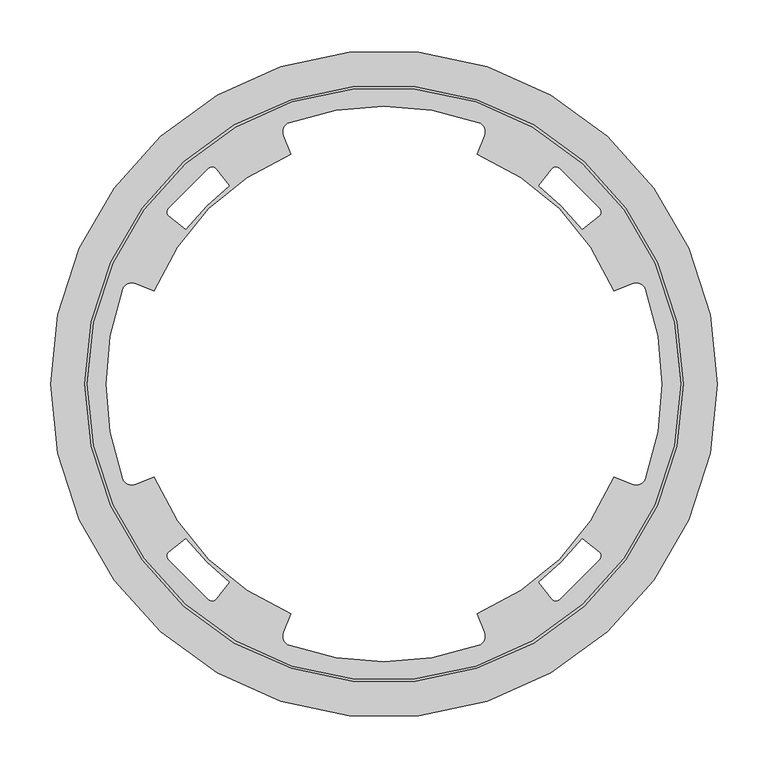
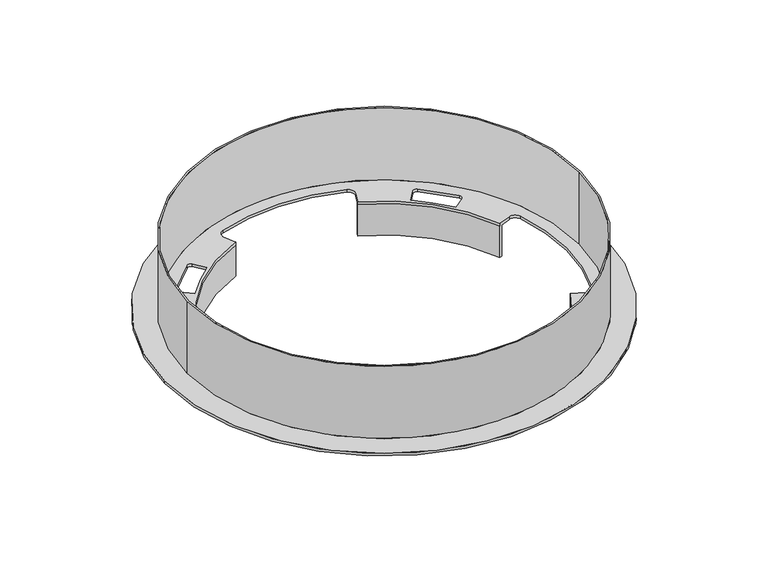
"""IFC4 building model written with IfcOpenShell, lengths in millimetres: proxy geometry, RSK C3 Chamber Adapter : RSK C3 C.A."""

from ifc_helpers import new_model, si_unit, frame, origin, origin_with_axes, place, context, project, spatial, polyline, circle_curve, source, transform, mapped, element, save
from ifc_brep_helpers import plane_surface, cylinder_surface, revolved_surface, advanced_brep


def generic_models_1d168c08(model_context):
    return source(origin(), model_context, "Body", "AdvancedBrep", [
        advanced_brep(
        [(-330.0, 0.0, 4.0), (330.0, 0.0, 4.0), (296.0, 0.0, 4.0), (-296.0, 0.0, 4.0), (293.5, 0.0, 4.0), (-293.5, 0.0, 4.0), (93.3217201, -258.6813804, 4.0), (-93.3217201, -258.6813804, 4.0), (-99.2000416, -245.5287188, 4.0), (-91.7786154, -227.1600444, 4.0), (-227.1600444, -91.7786154, 4.0), (-245.5287188, -99.2000416, 4.0), (-258.6813804, -93.3217201, 4.0), (-258.6813804, 93.3217201, 4.0), (-245.5287188, 99.2000416, 4.0), (-227.1600444, 91.7786154, 4.0), (-91.7786154, 227.1600444, 4.0), (-99.2000416, 245.5287188, 4.0), (-93.3217201, 258.6813804, 4.0), (93.3217201, 258.6813804, 4.0), (99.2000416, 245.5287188, 4.0), (91.7786154, 227.1600444, 4.0), (227.1600444, 91.7786154, 4.0), (245.5287188, 99.2000416, 4.0), (258.6813804, 93.3217201, 4.0), (258.6813804, -93.3217201, 4.0), (245.5287188, -99.2000416, 4.0), (227.1600444, -91.7786154, 4.0), (91.7786154, -227.1600444, 4.0), (99.2000416, -245.5287188, 4.0), (212.7264184, -166.200093, 4.0), (213.5304834, -173.2908903, 4.0), (173.2908903, -213.5304834, 4.0), (166.200093, -212.7264184, 4.0), (153.2997074, -196.2146776, 4.0), (196.2146776, -153.2997074, 4.0), (166.200093, 212.7264184, 4.0), (173.2908903, 213.5304834, 4.0), (213.5304834, 173.2908903, 4.0), (212.7264184, 166.200093, 4.0), (196.2146776, 153.2997074, 4.0), (153.2997074, 196.2146776, 4.0), (-212.7264184, -166.200093, 4.0), (-196.2146776, -153.2997074, 4.0), (-153.2997074, -196.2146776, 4.0), (-166.200093, -212.7264184, 4.0), (-173.2908903, -213.5304834, 4.0), (-213.5304834, -173.2908903, 4.0), (-166.200093, 212.7264184, 4.0), (-153.2997074, 196.2146776, 4.0), (-196.2146776, 153.2997074, 4.0), (-212.7264184, 166.200093, 4.0), (-213.5304834, 173.2908903, 4.0), (-173.2908903, 213.5304834, 4.0), (-330.0, 0.0, 0.0), (330.0, 0.0, 0.0), (93.3217201, -258.6813804, 0.0), (99.2000416, -245.5287188, 0.0), (93.2770418, -230.8687798, 0.0), (153.2997074, -196.2146776, 0.0), (166.200093, -212.7264184, 0.0), (173.2908903, -213.5304834, 0.0), (213.5304834, -173.2908903, 0.0), (212.7264184, -166.200093, 0.0), (196.2146776, -153.2997074, 0.0), (230.8687798, -93.2770418, 0.0), (245.5287188, -99.2000416, 0.0), (258.6813804, -93.3217201, 0.0), (258.6813804, 93.3217201, 0.0), (245.5287188, 99.2000416, 0.0), (230.8687798, 93.2770418, 0.0), (196.2146776, 153.2997074, 0.0), (212.7264184, 166.200093, 0.0), (213.5304834, 173.2908903, 0.0), (173.2908903, 213.5304834, 0.0), (166.200093, 212.7264184, 0.0), (153.2997074, 196.2146776, 0.0), (93.2770418, 230.8687798, 0.0), (99.2000416, 245.5287188, 0.0), (93.3217201, 258.6813804, 0.0), (-93.3217201, 258.6813804, 0.0), (-99.2000416, 245.5287188, 0.0), (-93.2770418, 230.8687798, 0.0), (-153.2997074, 196.2146776, 0.0), (-166.200093, 212.7264184, 0.0), (-173.2908903, 213.5304834, 0.0), (-213.5304834, 173.2908903, 0.0), (-212.7264184, 166.200093, 0.0), (-196.2146776, 153.2997074, 0.0), (-230.8687798, 93.2770418, 0.0), (-245.5287188, 99.2000416, 0.0), (-258.6813804, 93.3217201, 0.0), (-258.6813804, -93.3217201, 0.0), (-245.5287188, -99.2000416, 0.0), (-230.8687798, -93.2770418, 0.0), (-196.2146776, -153.2997074, 0.0), (-212.7264184, -166.200093, 0.0), (-213.5304834, -173.2908903, 0.0), (-173.2908903, -213.5304834, 0.0), (-166.200093, -212.7264184, 0.0), (-153.2997074, -196.2146776, 0.0), (-93.2770418, -230.8687798, 0.0), (-99.2000416, -245.5287188, 0.0), (-93.3217201, -258.6813804, 0.0), (-93.2770418, -230.8687798, -50.0), (-91.7786154, -227.1600444, -50.0), (-91.7786154, -227.1600444, 0.0), (-227.1600444, -91.7786154, 0.0), (-227.1600444, -91.7786154, -50.0), (-230.8687798, -93.2770418, -50.0), (-230.8687798, 93.2770418, -50.0), (-227.1600444, 91.7786154, -50.0), (-227.1600444, 91.7786154, 0.0), (-91.7786154, 227.1600444, 0.0), (-91.7786154, 227.1600444, -50.0), (-93.2770418, 230.8687798, -50.0), (93.2770418, 230.8687798, -50.0), (91.7786154, 227.1600444, -50.0), (91.7786154, 227.1600444, 0.0), (227.1600444, 91.7786154, 0.0), (227.1600444, 91.7786154, -50.0), (230.8687798, 93.2770418, -50.0), (230.8687798, -93.2770418, -50.0), (227.1600444, -91.7786154, -50.0), (227.1600444, -91.7786154, 0.0), (91.7786154, -227.1600444, 0.0), (91.7786154, -227.1600444, -50.0), (93.2770418, -230.8687798, -50.0), (-296.0, 0.0, 119.0), (296.0, 0.0, 119.0), (-293.5, 0.0, 119.0), (293.5, 0.0, 119.0)],
        [
            (0, 1, circle_curve(frame((0.0, 0.0, 4.0), z_axis=(0.0, 0.0, 1.0), x_axis=(1.0, 0.0, 0.0)), 330.0)),
            (1, 0, circle_curve(frame((0.0, 0.0, 4.0), z_axis=(0.0, 0.0, 1.0), x_axis=(1.0, 0.0, 0.0)), 330.0)),
            (2, 3, circle_curve(frame((0.0, 0.0, 4.0), z_axis=(0.0, 0.0, -1.0), x_axis=(1.0, 0.0, 0.0)), 296.0)),
            (3, 2, circle_curve(frame((0.0, 0.0, 4.0), z_axis=(0.0, 0.0, -1.0), x_axis=(1.0, 0.0, 0.0)), 296.0)),
            (4, 5, circle_curve(frame((0.0, 0.0, 4.0), z_axis=(0.0, 0.0, 1.0), x_axis=(1.0, 0.0, 0.0)), 293.5)),
            (5, 4, circle_curve(frame((0.0, 0.0, 4.0), z_axis=(0.0, 0.0, 1.0), x_axis=(1.0, 0.0, 0.0)), 293.5)),
            (6, 7, circle_curve(frame((0.0, 0.0, 4.0), z_axis=(0.0, 0.0, -1.0), x_axis=(1.0, 0.0, 0.0)), 275.0)),
            (7, 8, circle_curve(frame((-89.928203, -249.2747847, 4.0), z_axis=(0.0, 0.0, -1.0), x_axis=(1.0, 0.0, 0.0)), 10.0)),
            (8, 9),
            (9, 10, circle_curve(frame((0.0, 0.0, 4.0), z_axis=(0.0, 0.0, -1.0), x_axis=(1.0, 0.0, 0.0)), 245.0)),
            (10, 11),
            (11, 12, circle_curve(frame((-249.2747847, -89.928203, 4.0), z_axis=(0.0, 0.0, -1.0), x_axis=(1.0, 0.0, 0.0)), 10.0)),
            (12, 13, circle_curve(frame((0.0, 0.0, 4.0), z_axis=(0.0, 0.0, -1.0), x_axis=(1.0, 0.0, 0.0)), 275.0)),
            (13, 14, circle_curve(frame((-249.2747847, 89.928203, 4.0), z_axis=(0.0, 0.0, -1.0), x_axis=(1.0, 0.0, 0.0)), 10.0)),
            (14, 15),
            (15, 16, circle_curve(frame((0.0, 0.0, 4.0), z_axis=(0.0, 0.0, -1.0), x_axis=(1.0, 0.0, 0.0)), 245.0)),
            (16, 17),
            (17, 18, circle_curve(frame((-89.928203, 249.2747847, 4.0), z_axis=(0.0, 0.0, -1.0), x_axis=(1.0, 0.0, 0.0)), 10.0)),
            (18, 19, circle_curve(frame((0.0, 0.0, 4.0), z_axis=(0.0, 0.0, -1.0), x_axis=(1.0, 0.0, 0.0)), 275.0)),
            (19, 20, circle_curve(frame((89.928203, 249.2747847, 4.0), z_axis=(0.0, 0.0, -1.0), x_axis=(1.0, 0.0, 0.0)), 10.0)),
            (20, 21),
            (21, 22, circle_curve(frame((0.0, 0.0, 4.0), z_axis=(0.0, 0.0, -1.0), x_axis=(1.0, 0.0, 0.0)), 245.0)),
            (22, 23),
            (23, 24, circle_curve(frame((249.2747847, 89.928203, 4.0), z_axis=(0.0, 0.0, -1.0), x_axis=(1.0, 0.0, 0.0)), 10.0)),
            (24, 25, circle_curve(frame((0.0, 0.0, 4.0), z_axis=(0.0, 0.0, -1.0), x_axis=(1.0, 0.0, 0.0)), 275.0)),
            (25, 26, circle_curve(frame((249.2747847, -89.928203, 4.0), z_axis=(0.0, 0.0, -1.0), x_axis=(1.0, 0.0, 0.0)), 10.0)),
            (26, 27),
            (27, 28, circle_curve(frame((0.0, 0.0, 4.0), z_axis=(0.0, 0.0, -1.0), x_axis=(1.0, 0.0, 0.0)), 245.0)),
            (28, 29),
            (29, 6, circle_curve(frame((89.928203, -249.2747847, 4.0), z_axis=(0.0, 0.0, -1.0), x_axis=(1.0, 0.0, 0.0)), 10.0)),
            (30, 31, circle_curve(frame((209.648111, -170.1401468, 4.0), z_axis=(0.0, 0.0, -1.0), x_axis=(1.0, 0.0, 0.0)), 5.0)),
            (31, 32, circle_curve(frame((0.0, 0.0, 4.0), z_axis=(0.0, 0.0, -1.0), x_axis=(1.0, 0.0, 0.0)), 275.0)),
            (32, 33, circle_curve(frame((170.1401468, -209.648111, 4.0), z_axis=(0.0, 0.0, -1.0), x_axis=(1.0, 0.0, 0.0)), 5.0)),
            (33, 34),
            (34, 35, circle_curve(frame((0.0, 0.0, 4.0), z_axis=(0.0, 0.0, 1.0), x_axis=(1.0, 0.0, 0.0)), 249.0)),
            (35, 30),
            (36, 37, circle_curve(frame((170.1401468, 209.648111, 4.0), z_axis=(0.0, 0.0, -1.0), x_axis=(0.0, 1.0, 0.0)), 5.0)),
            (37, 38, circle_curve(frame((0.0, 0.0, 4.0), z_axis=(0.0, 0.0, -1.0), x_axis=(0.0, 1.0, 0.0)), 275.0)),
            (38, 39, circle_curve(frame((209.648111, 170.1401468, 4.0), z_axis=(0.0, 0.0, -1.0), x_axis=(0.0, 1.0, 0.0)), 5.0)),
            (39, 40),
            (40, 41, circle_curve(frame((0.0, 0.0, 4.0), z_axis=(0.0, 0.0, 1.0), x_axis=(0.0, 1.0, 0.0)), 249.0)),
            (41, 36),
            (42, 43),
            (43, 44, circle_curve(frame((0.0, 0.0, 4.0), z_axis=(0.0, 0.0, 1.0), x_axis=(-1.0, 0.0, 0.0)), 249.0)),
            (44, 45),
            (45, 46, circle_curve(frame((-170.1401468, -209.648111, 4.0), z_axis=(0.0, 0.0, -1.0), x_axis=(-1.0, 0.0, 0.0)), 5.0)),
            (46, 47, circle_curve(frame((0.0, 0.0, 4.0), z_axis=(0.0, 0.0, -1.0), x_axis=(-1.0, 0.0, 0.0)), 275.0)),
            (47, 42, circle_curve(frame((-209.648111, -170.1401468, 4.0), z_axis=(0.0, 0.0, -1.0), x_axis=(-1.0, 0.0, 0.0)), 5.0)),
            (48, 49),
            (49, 50, circle_curve(frame((0.0, 0.0, 4.0), z_axis=(0.0, 0.0, 1.0), x_axis=(0.0, 1.0, 0.0)), 249.0)),
            (50, 51),
            (51, 52, circle_curve(frame((-209.648111, 170.1401468, 4.0), z_axis=(0.0, 0.0, -1.0), x_axis=(0.0, 1.0, 0.0)), 5.0)),
            (52, 53, circle_curve(frame((0.0, 0.0, 4.0), z_axis=(0.0, 0.0, -1.0), x_axis=(0.0, 1.0, 0.0)), 275.0)),
            (53, 48, circle_curve(frame((-170.1401468, 209.648111, 4.0), z_axis=(0.0, 0.0, -1.0), x_axis=(0.0, 1.0, 0.0)), 5.0)),
            (54, 55, circle_curve(frame((0.0, 0.0, 0.0), z_axis=(0.0, 0.0, -1.0), x_axis=(1.0, 0.0, 0.0)), 330.0)),
            (55, 54, circle_curve(frame((0.0, 0.0, 0.0), z_axis=(0.0, 0.0, -1.0), x_axis=(1.0, 0.0, 0.0)), 330.0)),
            (56, 57, circle_curve(frame((89.928203, -249.2747847, 0.0), z_axis=(0.0, 0.0, 1.0), x_axis=(1.0, 0.0, 0.0)), 10.0)),
            (57, 58),
            (58, 59, circle_curve(origin_with_axes(), 249.0)),
            (59, 60),
            (60, 61, circle_curve(frame((170.1401468, -209.648111, 0.0), z_axis=(0.0, 0.0, 1.0), x_axis=(1.0, 0.0, 0.0)), 5.0)),
            (61, 62, circle_curve(origin_with_axes(), 275.0)),
            (62, 63, circle_curve(frame((209.648111, -170.1401468, 0.0), z_axis=(0.0, 0.0, 1.0), x_axis=(1.0, 0.0, 0.0)), 5.0)),
            (63, 64),
            (64, 65, circle_curve(origin_with_axes(), 249.0)),
            (65, 66),
            (66, 67, circle_curve(frame((249.2747847, -89.928203, 0.0), z_axis=(0.0, 0.0, 1.0), x_axis=(1.0, 0.0, 0.0)), 10.0)),
            (67, 68, circle_curve(origin_with_axes(), 275.0)),
            (68, 69, circle_curve(frame((249.2747847, 89.928203, 0.0), z_axis=(0.0, 0.0, 1.0), x_axis=(1.0, 0.0, 0.0)), 10.0)),
            (69, 70),
            (70, 71, circle_curve(origin_with_axes(), 249.0)),
            (71, 72),
            (72, 73, circle_curve(frame((209.648111, 170.1401468, 0.0), z_axis=(0.0, 0.0, 1.0), x_axis=(0.0, 1.0, 0.0)), 5.0)),
            (73, 74, circle_curve(frame((0.0, 0.0, 0.0), z_axis=(0.0, 0.0, 1.0), x_axis=(0.0, 1.0, 0.0)), 275.0)),
            (74, 75, circle_curve(frame((170.1401468, 209.648111, 0.0), z_axis=(0.0, 0.0, 1.0), x_axis=(0.0, 1.0, 0.0)), 5.0)),
            (75, 76),
            (76, 77, circle_curve(origin_with_axes(), 249.0)),
            (77, 78),
            (78, 79, circle_curve(frame((89.928203, 249.2747847, 0.0), z_axis=(0.0, 0.0, 1.0), x_axis=(1.0, 0.0, 0.0)), 10.0)),
            (79, 80, circle_curve(origin_with_axes(), 275.0)),
            (80, 81, circle_curve(frame((-89.928203, 249.2747847, 0.0), z_axis=(0.0, 0.0, 1.0), x_axis=(1.0, 0.0, 0.0)), 10.0)),
            (81, 82),
            (82, 83, circle_curve(frame((0.0, 0.0, 0.0), z_axis=(0.0, 0.0, 1.0), x_axis=(-1.0, 0.0, 0.0)), 249.0)),
            (83, 84),
            (84, 85, circle_curve(frame((-170.1401468, 209.648111, 0.0), z_axis=(0.0, 0.0, 1.0), x_axis=(0.0, 1.0, 0.0)), 5.0)),
            (85, 86, circle_curve(frame((0.0, 0.0, 0.0), z_axis=(0.0, 0.0, 1.0), x_axis=(0.0, 1.0, 0.0)), 275.0)),
            (86, 87, circle_curve(frame((-209.648111, 170.1401468, 0.0), z_axis=(0.0, 0.0, 1.0), x_axis=(0.0, 1.0, 0.0)), 5.0)),
            (87, 88),
            (88, 89, circle_curve(frame((0.0, 0.0, 0.0), z_axis=(0.0, 0.0, 1.0), x_axis=(-1.0, 0.0, 0.0)), 249.0)),
            (89, 90),
            (90, 91, circle_curve(frame((-249.2747847, 89.928203, 0.0), z_axis=(0.0, 0.0, 1.0), x_axis=(1.0, 0.0, 0.0)), 10.0)),
            (91, 92, circle_curve(origin_with_axes(), 275.0)),
            (92, 93, circle_curve(frame((-249.2747847, -89.928203, 0.0), z_axis=(0.0, 0.0, 1.0), x_axis=(1.0, 0.0, 0.0)), 10.0)),
            (93, 94),
            (94, 95, circle_curve(frame((0.0, 0.0, 0.0), z_axis=(0.0, 0.0, 1.0), x_axis=(-1.0, 0.0, 0.0)), 249.0)),
            (95, 96),
            (96, 97, circle_curve(frame((-209.648111, -170.1401468, 0.0), z_axis=(0.0, 0.0, 1.0), x_axis=(-1.0, 0.0, 0.0)), 5.0)),
            (97, 98, circle_curve(frame((0.0, 0.0, 0.0), z_axis=(0.0, 0.0, 1.0), x_axis=(-1.0, 0.0, 0.0)), 275.0)),
            (98, 99, circle_curve(frame((-170.1401468, -209.648111, 0.0), z_axis=(0.0, 0.0, 1.0), x_axis=(-1.0, 0.0, 0.0)), 5.0)),
            (99, 100),
            (100, 101, circle_curve(frame((0.0, 0.0, 0.0), z_axis=(0.0, 0.0, 1.0), x_axis=(-1.0, 0.0, 0.0)), 249.0)),
            (101, 102),
            (102, 103, circle_curve(frame((-89.928203, -249.2747847, 0.0), z_axis=(0.0, 0.0, 1.0), x_axis=(1.0, 0.0, 0.0)), 10.0)),
            (103, 56, circle_curve(origin_with_axes(), 275.0)),
            (6, 56),
            (103, 7),
            (102, 8),
            (101, 104),
            (104, 105),
            (105, 106),
            (106, 9),
            (106, 107, circle_curve(frame((0.0, 0.0, 0.0), z_axis=(0.0, 0.0, -1.0), x_axis=(1.0, 0.0, 0.0)), 245.0)),
            (107, 10),
            (107, 108),
            (108, 109),
            (109, 94),
            (93, 11),
            (92, 12),
            (91, 13),
            (90, 14),
            (89, 110),
            (110, 111),
            (111, 112),
            (112, 15),
            (112, 113, circle_curve(frame((0.0, 0.0, 0.0), z_axis=(0.0, 0.0, -1.0), x_axis=(1.0, 0.0, 0.0)), 245.0)),
            (113, 16),
            (113, 114),
            (114, 115),
            (115, 82),
            (81, 17),
            (80, 18),
            (79, 19),
            (78, 20),
            (77, 116),
            (116, 117),
            (117, 118),
            (118, 21),
            (118, 119, circle_curve(frame((0.0, 0.0, 0.0), z_axis=(0.0, 0.0, -1.0), x_axis=(1.0, 0.0, 0.0)), 245.0)),
            (119, 22),
            (119, 120),
            (120, 121),
            (121, 70),
            (69, 23),
            (68, 24),
            (67, 25),
            (66, 26),
            (65, 122),
            (122, 123),
            (123, 124),
            (124, 27),
            (124, 125, circle_curve(frame((0.0, 0.0, 0.0), z_axis=(0.0, 0.0, -1.0), x_axis=(1.0, 0.0, 0.0)), 245.0)),
            (125, 28),
            (125, 126),
            (126, 127),
            (127, 58),
            (57, 29),
            (0, 54),
            (55, 1),
            (30, 63),
            (62, 31),
            (61, 32),
            (60, 33),
            (59, 34),
            (59, 64, circle_curve(origin_with_axes(), 249.0)),
            (64, 35),
            (36, 75),
            (74, 37),
            (73, 38),
            (72, 39),
            (71, 40),
            (71, 76, circle_curve(frame((0.0, 0.0, 0.0), z_axis=(0.0, 0.0, 1.0), x_axis=(0.0, 1.0, 0.0)), 249.0)),
            (76, 41),
            (42, 96),
            (95, 43),
            (95, 100, circle_curve(frame((0.0, 0.0, 0.0), z_axis=(0.0, 0.0, 1.0), x_axis=(-1.0, 0.0, 0.0)), 249.0)),
            (100, 44),
            (99, 45),
            (98, 46),
            (97, 47),
            (48, 84),
            (83, 49),
            (83, 88, circle_curve(frame((0.0, 0.0, 0.0), z_axis=(0.0, 0.0, 1.0), x_axis=(0.0, 1.0, 0.0)), 249.0)),
            (88, 50),
            (87, 51),
            (86, 52),
            (85, 53),
            (128, 129, circle_curve(frame((0.0, 0.0, 119.0), z_axis=(0.0, 0.0, 1.0), x_axis=(1.0, 0.0, 0.0)), 296.0)),
            (129, 128, circle_curve(frame((0.0, 0.0, 119.0), z_axis=(0.0, 0.0, 1.0), x_axis=(1.0, 0.0, 0.0)), 296.0)),
            (130, 131, circle_curve(frame((0.0, 0.0, 119.0), z_axis=(0.0, 0.0, -1.0), x_axis=(1.0, 0.0, 0.0)), 293.5)),
            (131, 130, circle_curve(frame((0.0, 0.0, 119.0), z_axis=(0.0, 0.0, -1.0), x_axis=(1.0, 0.0, 0.0)), 293.5)),
            (130, 5),
            (4, 131),
            (128, 3),
            (2, 129),
            (110, 115, circle_curve(frame((0.0, 0.0, -50.0), z_axis=(0.0, 0.0, -1.0), x_axis=(-1.0, 0.0, 0.0)), 249.0)),
            (114, 111, circle_curve(frame((0.0, 0.0, -50.0), z_axis=(0.0, 0.0, 1.0), x_axis=(-1.0, 0.0, 0.0)), 245.0)),
            (122, 127, circle_curve(frame((0.0, 0.0, -50.0), z_axis=(0.0, 0.0, -1.0), x_axis=(1.0, 0.0, 0.0)), 249.0)),
            (126, 123, circle_curve(frame((0.0, 0.0, -50.0), z_axis=(0.0, 0.0, 1.0), x_axis=(1.0, 0.0, 0.0)), 245.0)),
            (108, 105, circle_curve(frame((0.0, 0.0, -50.0), z_axis=(0.0, 0.0, 1.0), x_axis=(-1.0, 0.0, 0.0)), 245.0)),
            (104, 109, circle_curve(frame((0.0, 0.0, -50.0), z_axis=(0.0, 0.0, -1.0), x_axis=(-1.0, 0.0, 0.0)), 249.0)),
            (120, 117, circle_curve(frame((0.0, 0.0, -50.0), z_axis=(0.0, 0.0, 1.0), x_axis=(1.0, 0.0, 0.0)), 245.0)),
            (116, 121, circle_curve(frame((0.0, 0.0, -50.0), z_axis=(0.0, 0.0, -1.0), x_axis=(1.0, 0.0, 0.0)), 249.0)),
        ],
        [
            plane_surface(frame((275.0, 0.0, 4.0), z_axis=(0.0, 0.0, 1.0), x_axis=(0.0, -1.0, 0.0))),
            plane_surface(frame((275.0, 0.0, 0.0), z_axis=(0.0, 0.0, -1.0), x_axis=(0.0, 1.0, 0.0))),
            revolved_surface(polyline([(275.0, 0.0, 0.0), (275.0, 0.0, 4.0)]), (0.0, 0.0, 0.0), (0.0, 0.0, -1.0)),
            revolved_surface(polyline([(-79.928203, -249.2747847, 0.0), (-79.928203, -249.2747847, 4.0)]), (-89.928203, -249.2747847, 0.0), (0.0, 0.0, -1.0)),
            plane_surface(frame((-99.2000416, -245.5287188, 4.0), z_axis=(0.9271838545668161, -0.3746065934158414, 0.0), x_axis=(0.0, 0.0, -1.0))),
            revolved_surface(polyline([(245.0, 0.0, 0.0), (245.0, 0.0, 4.0)]), (0.0, 0.0, 0.0), (0.0, 0.0, -1.0)),
            plane_surface(frame((-227.1600444, -91.7786154, 4.0), z_axis=(-0.3746065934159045, 0.9271838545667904, 0.0), x_axis=(0.0, 0.0, -1.0))),
            revolved_surface(polyline([(-239.2747847, -89.928203, 0.0), (-239.2747847, -89.928203, 4.0)]), (-249.2747847, -89.928203, 0.0), (0.0, 0.0, -1.0)),
            revolved_surface(polyline([(-239.2747847, 89.928203, 0.0), (-239.2747847, 89.928203, 4.0)]), (-249.2747847, 89.928203, 0.0), (0.0, 0.0, -1.0)),
            plane_surface(frame((-245.5287188, 99.2000416, 4.0), z_axis=(-0.37460659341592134, -0.9271838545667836, 0.0), x_axis=(0.0, 0.0, -1.0))),
            plane_surface(frame((-91.7786154, 227.1600444, 4.0), z_axis=(0.9271838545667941, 0.3746065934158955, 0.0), x_axis=(0.0, 0.0, -1.0))),
            revolved_surface(polyline([(-79.928203, 249.2747847, 0.0), (-79.928203, 249.2747847, 4.0)]), (-89.928203, 249.2747847, 0.0), (0.0, 0.0, -1.0)),
            revolved_surface(polyline([(99.928203, 249.2747847, 0.0), (99.928203, 249.2747847, 4.0)]), (89.928203, 249.2747847, 0.0), (0.0, 0.0, -1.0)),
            plane_surface(frame((99.2000416, 245.5287188, 4.0), z_axis=(-0.9271838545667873, 0.37460659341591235, 0.0), x_axis=(0.0, 0.0, -1.0))),
            plane_surface(frame((227.1600444, 91.7786154, 4.0), z_axis=(0.3746065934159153, -0.9271838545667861, 0.0), x_axis=(0.0, 0.0, -1.0))),
            revolved_surface(polyline([(259.2747847, 89.928203, 0.0), (259.2747847, 89.928203, 4.0)]), (249.2747847, 89.928203, 0.0), (0.0, 0.0, -1.0)),
            revolved_surface(polyline([(259.2747847, -89.928203, 0.0), (259.2747847, -89.928203, 4.0)]), (249.2747847, -89.928203, 0.0), (0.0, 0.0, -1.0)),
            plane_surface(frame((245.5287188, -99.2000416, 4.0), z_axis=(0.3746065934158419, 0.9271838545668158, 0.0), x_axis=(0.0, 0.0, -1.0))),
            plane_surface(frame((91.7786154, -227.1600444, 4.0), z_axis=(-0.9271838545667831, -0.37460659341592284, 0.0), x_axis=(0.0, 0.0, -1.0))),
            revolved_surface(polyline([(99.928203, -249.2747847, 0.0), (99.928203, -249.2747847, 4.0)]), (89.928203, -249.2747847, 0.0), (0.0, 0.0, -1.0)),
            cylinder_surface(origin_with_axes(), 330.0),
            revolved_surface(polyline([(214.648111, -170.1401468, 0.0), (214.648111, -170.1401468, 4.0)]), (209.648111, -170.1401468, 0.0), (0.0, 0.0, -1.0)),
            revolved_surface(polyline([(175.1401468, -209.648111, 0.0), (175.1401468, -209.648111, 4.0)]), (170.1401468, -209.648111, 0.0), (0.0, 0.0, -1.0)),
            plane_surface(frame((166.200093, -212.7264184, 4.0), z_axis=(0.7880107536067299, 0.6156614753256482, 0.0), x_axis=(0.0, 0.0, -1.0))),
            cylinder_surface(origin_with_axes(), 249.0),
            plane_surface(frame((196.2146776, -153.2997074, 4.0), z_axis=(-0.6156614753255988, -0.7880107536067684, 0.0), x_axis=(0.0, 0.0, -1.0))),
            revolved_surface(polyline([(170.1401468, 214.648111, 0.0), (170.1401468, 214.648111, 4.0)]), (170.1401468, 209.648111, 0.0), (0.0, 0.0, -1.0)),
            revolved_surface(polyline([(0.0, 275.0, 0.0), (0.0, 275.0, 4.0)]), (0.0, 0.0, 0.0), (0.0, 0.0, -1.0)),
            revolved_surface(polyline([(209.648111, 175.1401468, 0.0), (209.648111, 175.1401468, 4.0)]), (209.648111, 170.1401468, 0.0), (0.0, 0.0, -1.0)),
            plane_surface(frame((212.7264184, 166.200093, 4.0), z_axis=(-0.615661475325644, 0.7880107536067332, 0.0), x_axis=(0.0, 0.0, -1.0))),
            cylinder_surface(frame((0.0, 0.0, 0.0), z_axis=(0.0, 0.0, 1.0), x_axis=(0.0, 1.0, 0.0)), 249.0),
            plane_surface(frame((153.2997074, 196.2146776, 4.0), z_axis=(0.7880107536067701, -0.6156614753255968, 0.0), x_axis=(0.0, 0.0, -1.0))),
            plane_surface(frame((-212.7264184, -166.200093, 4.0), z_axis=(0.6156614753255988, -0.7880107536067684, 0.0), x_axis=(0.0, 0.0, -1.0))),
            cylinder_surface(frame((0.0, 0.0, 0.0), z_axis=(0.0, 0.0, 1.0), x_axis=(-1.0, 0.0, 0.0)), 249.0),
            plane_surface(frame((-153.2997074, -196.2146776, 4.0), z_axis=(-0.7880107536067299, 0.6156614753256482, 0.0), x_axis=(0.0, 0.0, -1.0))),
            revolved_surface(polyline([(-175.1401468, -209.648111, 0.0), (-175.1401468, -209.648111, 4.0)]), (-170.1401468, -209.648111, 0.0), (0.0, 0.0, -1.0)),
            revolved_surface(polyline([(-275.0, 0.0, 0.0), (-275.0, 0.0, 4.0)]), (0.0, 0.0, 0.0), (0.0, 0.0, -1.0)),
            revolved_surface(polyline([(-214.648111, -170.1401468, 0.0), (-214.648111, -170.1401468, 4.0)]), (-209.648111, -170.1401468, 0.0), (0.0, 0.0, -1.0)),
            plane_surface(frame((-166.200093, 212.7264184, 4.0), z_axis=(-0.7880107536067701, -0.6156614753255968, 0.0), x_axis=(0.0, 0.0, -1.0))),
            plane_surface(frame((-196.2146776, 153.2997074, 4.0), z_axis=(0.615661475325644, 0.7880107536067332, 0.0), x_axis=(0.0, 0.0, -1.0))),
            revolved_surface(polyline([(-209.648111, 175.1401468, 0.0), (-209.648111, 175.1401468, 4.0)]), (-209.648111, 170.1401468, 0.0), (0.0, 0.0, -1.0)),
            revolved_surface(polyline([(-170.1401468, 214.648111, 0.0), (-170.1401468, 214.648111, 4.0)]), (-170.1401468, 209.648111, 0.0), (0.0, 0.0, -1.0)),
            plane_surface(frame((293.5, 0.0, 119.0), z_axis=(0.0, 0.0, 1.0), x_axis=(0.0, -1.0, 0.0))),
            revolved_surface(polyline([(293.5, 0.0, 4.0), (293.5, 0.0, 119.0)]), (0.0, 0.0, 4.0), (0.0, 0.0, -1.0)),
            cylinder_surface(origin_with_axes(), 296.0),
            plane_surface(frame((-245.0, 0.0, -50.0), z_axis=(0.0, 0.0, -1.0), x_axis=(0.0, -1.0, 0.0))),
            cylinder_surface(frame((0.0, 0.0, -50.0), z_axis=(0.0, 0.0, 1.0), x_axis=(-1.0, 0.0, 0.0)), 249.0),
            revolved_surface(polyline([(-245.0, 0.0, -50.0), (-245.0, 0.0, 0.0)]), (0.0, 0.0, -50.0), (0.0, 0.0, -1.0)),
            plane_surface(frame((245.0, 0.0, -50.0), z_axis=(0.0, 0.0, -1.0), x_axis=(0.0, 1.0, 0.0))),
            cylinder_surface(frame((0.0, 0.0, -50.0), z_axis=(0.0, 0.0, 1.0), x_axis=(1.0, 0.0, 0.0)), 249.0),
            revolved_surface(polyline([(245.0, 0.0, -50.0), (245.0, 0.0, 0.0)]), (0.0, 0.0, -50.0), (0.0, 0.0, -1.0)),
            plane_surface(frame((-227.1600444, -91.7786154, -50.0), z_axis=(0.0, 0.0, -1.0), x_axis=(0.9271838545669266, 0.3746065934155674, 0.0))),
            plane_surface(frame((227.1600444, 91.7786154, -50.0), z_axis=(0.0, 0.0, -1.0), x_axis=(-0.9271838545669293, -0.37460659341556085, 0.0))),
        ],
        [
            (0, [[1, 2], [3, 4]]),
            (0, [[5, 6], [7, 8, 9, 10, 11, 12, 13, 14, 15, 16, 17, 18, 19, 20, 21, 22, 23, 24, 25, 26, 27, 28, 29, 30], [31, 32, 33, 34, 35, 36], [37, 38, 39, 40, 41, 42], [43, 44, 45, 46, 47, 48], [49, 50, 51, 52, 53, 54]]),
            (1, [[55, 56], [57, 58, 59, 60, 61, 62, 63, 64, 65, 66, 67, 68, 69, 70, 71, 72, 73, 74, 75, 76, 77, 78, 79, 80, 81, 82, 83, 84, 85, 86, 87, 88, 89, 90, 91, 92, 93, 94, 95, 96, 97, 98, 99, 100, 101, 102, 103, 104]]),
            (2, [[-7, 105, -104, 106]]),
            (3, [[-8, -106, -103, 107]]),
            (4, [[-9, -107, -102, 108, 109, 110, 111]]),
            (5, [[-10, -111, 112, 113]]),
            (6, [[-11, -113, 114, 115, 116, -94, 117]]),
            (7, [[-12, -117, -93, 118]]),
            (2, [[-13, -118, -92, 119]]),
            (8, [[-14, -119, -91, 120]]),
            (9, [[-15, -120, -90, 121, 122, 123, 124]]),
            (5, [[-16, -124, 125, 126]]),
            (10, [[-17, -126, 127, 128, 129, -82, 130]]),
            (11, [[-18, -130, -81, 131]]),
            (2, [[-19, -131, -80, 132]]),
            (12, [[-20, -132, -79, 133]]),
            (13, [[-21, -133, -78, 134, 135, 136, 137]]),
            (5, [[-22, -137, 138, 139]]),
            (14, [[-23, -139, 140, 141, 142, -70, 143]]),
            (15, [[-24, -143, -69, 144]]),
            (2, [[-25, -144, -68, 145]]),
            (16, [[-26, -145, -67, 146]]),
            (17, [[-27, -146, -66, 147, 148, 149, 150]]),
            (5, [[-28, -150, 151, 152]]),
            (18, [[-29, -152, 153, 154, 155, -58, 156]]),
            (19, [[-30, -156, -57, -105]]),
            (20, [[-1, 157, -56, 158]]),
            (20, [[-2, -158, -55, -157]]),
            (21, [[-31, 159, -63, 160]]),
            (2, [[-32, -160, -62, 161]]),
            (22, [[-33, -161, -61, 162]]),
            (23, [[-34, -162, -60, 163]]),
            (24, [[-35, -163, 164, 165]]),
            (25, [[-36, -165, -64, -159]]),
            (26, [[-37, 166, -75, 167]]),
            (27, [[-38, -167, -74, 168]]),
            (28, [[-39, -168, -73, 169]]),
            (29, [[-40, -169, -72, 170]]),
            (30, [[-41, -170, 171, 172]]),
            (31, [[-42, -172, -76, -166]]),
            (32, [[-43, 173, -96, 174]]),
            (33, [[-44, -174, 175, 176]]),
            (34, [[-45, -176, -100, 177]]),
            (35, [[-46, -177, -99, 178]]),
            (36, [[-47, -178, -98, 179]]),
            (37, [[-48, -179, -97, -173]]),
            (38, [[-49, 180, -84, 181]]),
            (30, [[-50, -181, 182, 183]]),
            (39, [[-51, -183, -88, 184]]),
            (40, [[-52, -184, -87, 185]]),
            (27, [[-53, -185, -86, 186]]),
            (41, [[-54, -186, -85, -180]]),
            (42, [[187, 188], [189, 190]]),
            (43, [[-189, 191, -5, 192]]),
            (43, [[-190, -192, -6, -191]]),
            (44, [[-187, 193, -3, 194]]),
            (44, [[-188, -194, -4, -193]]),
            (45, [[-122, 195, -128, 196]]),
            (46, [[-195, -121, -89, -182, -83, -129]]),
            (47, [[-196, -127, -125, -123]]),
            (48, [[-148, 197, -154, 198]]),
            (49, [[-197, -147, -65, -164, -59, -155]]),
            (50, [[-198, -153, -151, -149]]),
            (51, [[199, -109, 200, -115]]),
            (46, [[-200, -108, -101, -175, -95, -116]]),
            (47, [[-199, -114, -112, -110]]),
            (52, [[201, -135, 202, -141]]),
            (49, [[-202, -134, -77, -171, -71, -142]]),
            (50, [[-201, -140, -138, -136]]),
        ],
    ),
    ])


if __name__ == "__main__":
    model = new_model("IFC4")
    model_context = context("Model", 3, world=origin())
    ifc_project = project(units=[si_unit("LENGTHUNIT", "METRE", prefix="MILLI")], contexts=[model_context])
    site = spatial("IfcSite", under=ifc_project)
    building = spatial("IfcBuilding", under=site)
    placement = place(None, origin())
    generic_models_shape = generic_models_1d168c08(model_context)
    element("IfcBuildingElementProxy", 1, Name="RSK C3 Chamber Adapter : RSK C3 C.A", ObjectType="RSK C3 Chamber Adapter : RSK C3 C.A", at=placement, inside=building, context=model_context, shape_type="MappedRepresentation", body=[
        mapped(generic_models_shape, transform((0.0, 0.0, 0.0), x_axis=(1.0, 0.0, 0.0), y_axis=(0.0, 1.0, 0.0), z_axis=(0.0, 0.0, 1.0))),
    ])
    save(model, "model.ifc")
